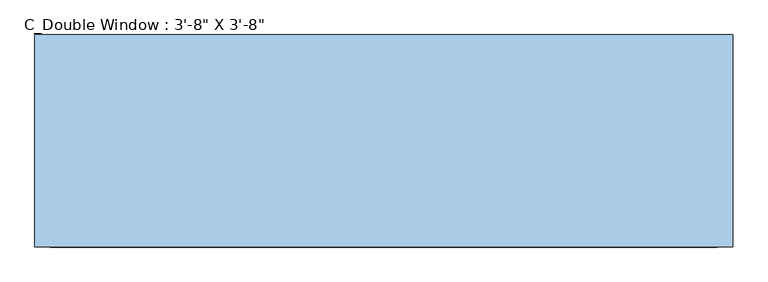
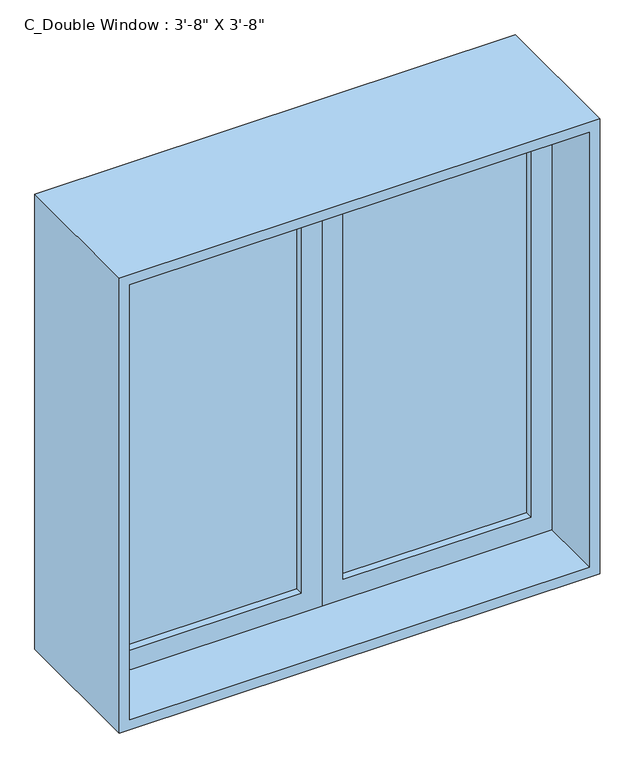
"""IFC4 building model written with IfcOpenShell, lengths in millimetres: window geometry."""

from ifc_helpers import new_model, si_unit, frame, origin, place, context, project, spatial, polyline, outline, extrude, source, transform, mapped, element, save


def window_22d53a17(model_context):
    return source(origin(), model_context, "Body", "SweptSolid", [
        extrude(outline(polyline([(-508.0, 0.0), (-508.0, 12.7), (-50.8, 12.7), (-50.8, 0.0), (-508.0, 0.0)])), frame((0.0, 0.0, 965.2), z_axis=(0.0, 0.0, 1.0), x_axis=(1.0, 0.0, 0.0)), (0.0, 0.0, 1.0), 1016.0),
        extrude(outline(polyline([(2032.0, -558.8), (914.4, -558.8), (914.4, 0.0), (2032.0, 0.0), (2032.0, -558.8)]), holes=[polyline([(1981.2, -50.8), (965.2, -50.8), (965.2, -508.0), (1981.2, -508.0), (1981.2, -50.8)])]), frame((0.0, -19.05, 0.0), z_axis=(0.0, 1.0, 0.0), x_axis=(0.0, 0.0, 1.0)), (0.0, 0.0, 1.0), 50.8),
        extrude(outline(polyline([(50.8, 0.0), (50.8, 12.7), (508.0, 12.7), (508.0, 0.0), (50.8, 0.0)])), frame((0.0, 0.0, 965.2), z_axis=(0.0, 0.0, 1.0), x_axis=(1.0, 0.0, 0.0)), (0.0, 0.0, 1.0), 1016.0),
        extrude(outline(polyline([(2032.0, 0.0), (914.4, 0.0), (914.4, 558.8), (2032.0, 558.8), (2032.0, 0.0)]), holes=[polyline([(1981.2, 508.0), (965.2, 508.0), (965.2, 50.8), (1981.2, 50.8), (1981.2, 508.0)])]), frame((0.0, -19.05, 0.0), z_axis=(0.0, 1.0, 0.0), x_axis=(0.0, 0.0, 1.0)), (0.0, 0.0, 1.0), 50.8),
        extrude(outline(polyline([(2057.4, -584.2), (889.0, -584.2), (889.0, 584.2), (2057.4, 584.2), (2057.4, -584.2)]), holes=[polyline([(2032.0, 558.8), (914.4, 558.8), (914.4, -558.8), (2032.0, -558.8), (2032.0, 558.8)])]), frame((0.0, -177.8, 0.0), z_axis=(0.0, 1.0, 0.0), x_axis=(0.0, 0.0, 1.0)), (0.0, 0.0, 1.0), 355.6),
    ])


if __name__ == "__main__":
    model = new_model("IFC4")
    model_context = context("Model", 3, world=origin())
    ifc_project = project(units=[si_unit("LENGTHUNIT", "METRE", prefix="MILLI")], contexts=[model_context])
    site = spatial("IfcSite", under=ifc_project)
    building = spatial("IfcBuilding", under=site)
    placement = place(None, origin())
    window_shape = window_22d53a17(model_context)
    element("IfcWindow", 1, ObjectType="C_Double Window : 3'-8\" X 3'-8\"", at=placement, inside=building, context=model_context, shape_type="MappedRepresentation", body=[
        mapped(window_shape, transform((0.0, 0.0, 0.0), x_axis=(1.0, 0.0, 0.0), y_axis=(0.0, 1.0, 0.0), z_axis=(0.0, 0.0, 1.0))),
    ])
    save(model, "model.ifc")
